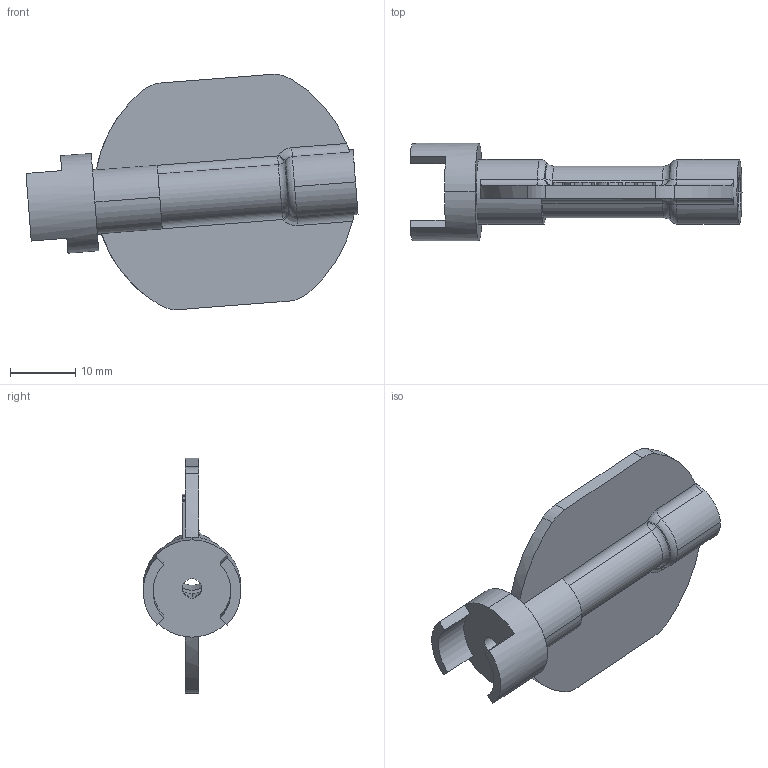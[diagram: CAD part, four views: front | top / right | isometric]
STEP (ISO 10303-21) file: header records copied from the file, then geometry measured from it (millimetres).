
FILE_DESCRIPTION((''),'2;1');
FILE_NAME('0000237059_PRT','2025-11-12T18:33:08',('Wyndorps'),(''),'CREO PARAMETRIC BY PTC INC, 2025010','CREO PARAMETRIC BY PTC INC, 2025010','');
FILE_SCHEMA(('CONFIG_CONTROL_DESIGN'));
Length unit declared in the file: millimetre
Products named in the file (1): 0000237059_PRT
Bounding box: 51.04 x 15 x 36.17 mm (x, y, z)
Volume: 3910.4 mm3; surface area: 4674.4 mm2
Topology: 1 solids, 1 shells, 147 faces, 364 edges, 232 vertices
Faces by surface type: plane 67, cylinder 38, extrusion 15, bspline 12, torus 6, sphere 6, cone 3
Entity records: 5050 total; most frequent: CARTESIAN_POINT 1603, ORIENTED_EDGE 728, DIRECTION 657, EDGE_CURVE 364, VERTEX_POINT 232, AXIS2_PLACEMENT_3D 222, VECTOR 213, LINE 198
